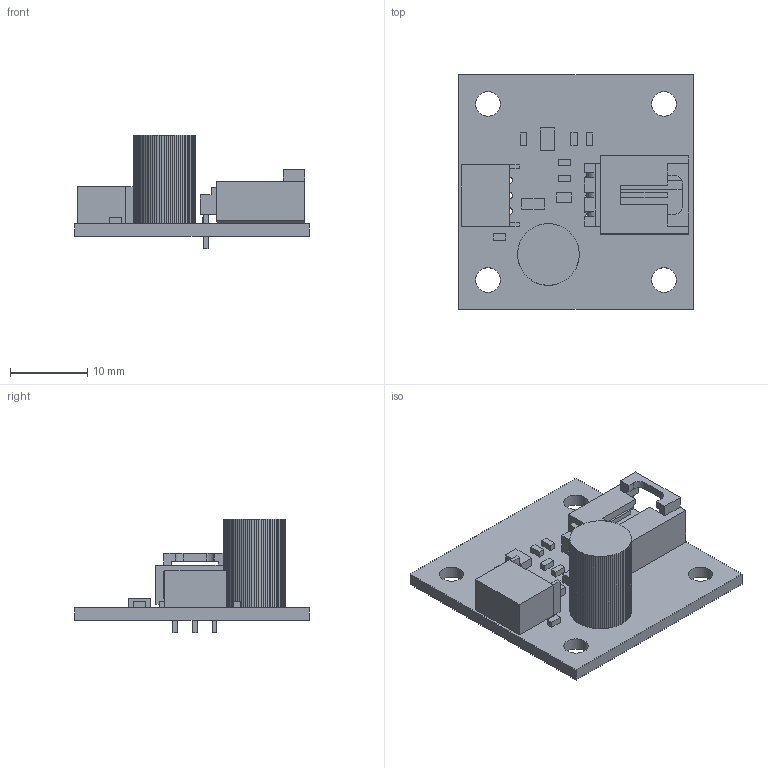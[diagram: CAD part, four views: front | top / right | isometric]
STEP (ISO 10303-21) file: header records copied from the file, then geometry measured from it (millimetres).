
FILE_DESCRIPTION(('Open CASCADE Model'),'2;1');
FILE_NAME('Open CASCADE Shape Model','2010-10-27T15:28:35',('Author'),( 'Open CASCADE'),'Open CASCADE STEP processor 6.2','Open CASCADE 6.2' ,'Unknown');
FILE_SCHEMA(('AUTOMOTIVE_DESIGN { 1 0 10303 214 1 1 1 1 }'));
Length unit declared in the file: millimetre
Products named in the file (33): PCB; Board; U2; 476630080; Extruded; R6; 476626496; R5; 476625728; R4; R3; R2; 476616512; R1; C1; J2; 476635456; 476630464; J1; 705530002; Open CASCADE STEP translator 6.2 19.11.1.1; Open CASCADE STEP translator 6.2 19.11.1.2; C2; 476636608; U1; 476626880
Assembly tree (37 placements, depth 4):
  PCB
    Board
    U2
      476630080
        Extruded
    R6
      476626496
        Extruded
    R5
      476625728
        Extruded
    R4
      476626496
        Extruded
    R3
      476625728
        Extruded
    R2
      476616512
        Extruded
    R1
      476625728
        Extruded
    C1
      476626496
        Extruded
    J2
      476635456  x2
        Extruded
      476630464
        Extruded
    J1
      705530002
        Open CASCADE STEP translator 6.2 19.11.1.1
        Open CASCADE STEP translator 6.2 19.11.1.2
    C2
      476636608
        Extruded
    U1
      476626880
        Extruded
Bounding box: 30.48 x 30.48 x 14.72 mm (x, y, z)
Volume: 2674.7 mm3; surface area: 3630 mm2
Topology: 15 solids, 15 shells, 293 faces, 770 edges, 518 vertices
Faces by surface type: plane 273, cylinder 20
Full cylindrical faces by diameter (mm): 0.813 x3, 0.965 x3, 1.067 x2, 3.175 x4
Entity records: 17946 total; most frequent: CARTESIAN_POINT 2959, DIRECTION 2722, LINE 1994, VECTOR 1994, ORIENTED_EDGE 1402, PCURVE 1402, DEFINITIONAL_REPRESENTATION 1402, EDGE_CURVE 701
